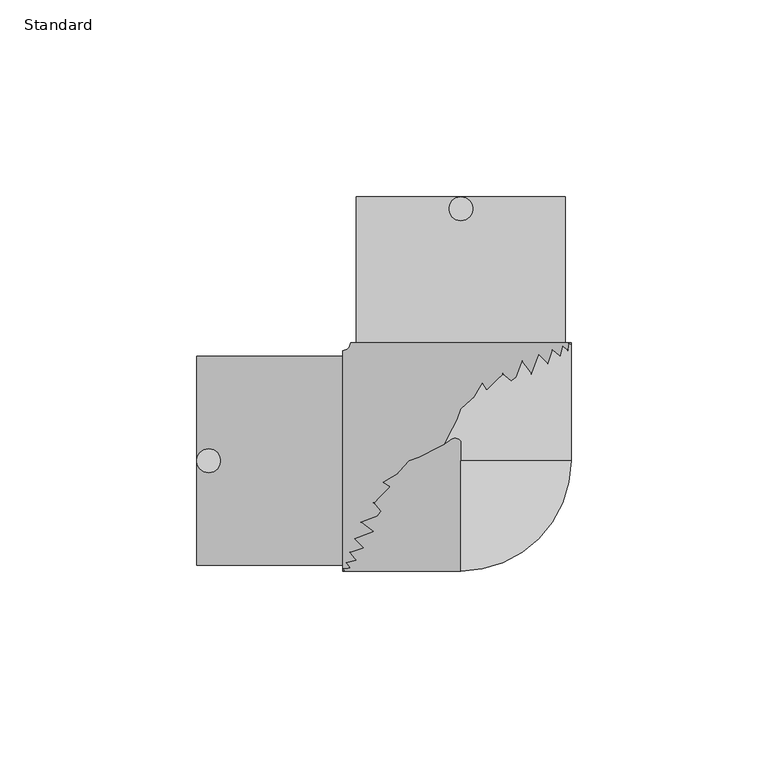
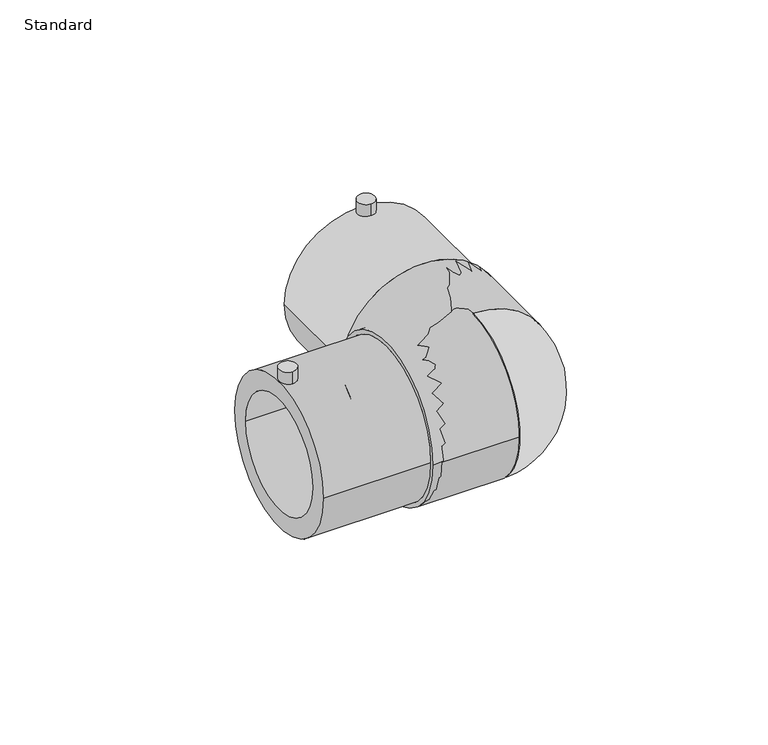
"""IFC4 building model written with IfcOpenShell, lengths in millimetres: pipe fitting geometry, EGB_VASEN_ PPR_Codo electrosoldable 90 WXRD200_Codo electrosoldable 45 WXRD220 : Standard."""

from ifc_helpers import new_model, si_unit, point, frame, frame_2d, origin, origin_2d, place, context, project, spatial, polyline, circle_curve, ellipse_curve, trimmed, segment, composite_curve, outline, extrude, source, transform, mapped, element, save
from ifc_brep_helpers import plane_surface, cylinder_surface, revolved_surface, advanced_brep


def standard_75b42b0b(model_context):
    return source(origin(), model_context, "Body", "SolidModel", [
        advanced_brep(
        [(0.0, 0.0, -28.0), (0.0, 0.0, 28.0)],
        [
            (0, 1, circle_curve(frame((0.0, 0.0, 0.0), z_axis=(-1.0, 0.0, 0.0), x_axis=(0.0, 1.0, 0.0)), 28.0)),
            (1, 0),
            (1, 0, circle_curve(frame((0.0, 0.0, 0.0), z_axis=(0.0, 1.0, 0.0), x_axis=(-1.0, 0.0, 0.0)), 28.0)),
        ],
        [
            plane_surface(frame((0.0, 0.0, 38.0431585), z_axis=(-1.0, 0.0, 0.0), x_axis=(0.0, -1.0, 0.0))),
            plane_surface(frame((0.0, 0.0, 38.0431585), z_axis=(0.0, 1.0, 0.0), x_axis=(1.0, 0.0, 0.0))),
            revolved_surface(trimmed(ellipse_curve(frame((0.0, 0.0, 0.0), z_axis=(1.0, 0.0, 0.0), x_axis=(0.0, 1.0, 0.0)), 28.0, 28.0), [point((0.0, 0.0, 28.0))], [point((0.0, 0.0, -28.0))], True, "CARTESIAN"), (0.0, 0.0, 38.0431585), (0.0, 0.0, -1.0)),
        ],
        [
            (0, [[1, 2]]),
            (1, [[3, -2]]),
            (2, [[-1, -3]]),
        ],
    ),
        advanced_brep(
        [(-67.0, -26.5, 0.0), (-67.0, 26.5, 0.0), (-67.0, -20.0, 0.0), (-67.0, 20.0, 0.0), (-30.0, -26.5, 0.0), (-30.0, 26.5, 0.0), (-30.0, -20.0, 0.0), (-30.0, 20.0, 0.0), (-30.0, -28.0, 0.0), (-30.0, 28.0, 0.0), (28.0, 30.0, 0.0), (-28.0, 30.0, 0.0), (26.5, 30.0, 0.0), (-26.5, 30.0, 0.0), (20.0, 30.0, 0.0), (-20.0, 30.0, 0.0), (26.5, 67.0, 0.0), (-26.5, 67.0, 0.0), (20.0, 67.0, 0.0), (-20.0, 67.0, 0.0)],
        [
            (0, 1, circle_curve(frame((-67.0, 0.0, 0.0), z_axis=(-1.0, 0.0, 0.0), x_axis=(0.0, 1.0, 0.0)), 26.5)),
            (1, 0, circle_curve(frame((-67.0, 0.0, 0.0), z_axis=(-1.0, 0.0, 0.0), x_axis=(0.0, 1.0, 0.0)), 26.5)),
            (2, 3, circle_curve(frame((-67.0, 0.0, 0.0), z_axis=(1.0, 0.0, 0.0), x_axis=(0.0, 1.0, 0.0)), 20.0)),
            (3, 2, circle_curve(frame((-67.0, 0.0, 0.0), z_axis=(1.0, 0.0, 0.0), x_axis=(0.0, 1.0, 0.0)), 20.0)),
            (0, 4),
            (4, 5, circle_curve(frame((-30.0, 0.0, 0.0), z_axis=(-1.0, 0.0, 0.0), x_axis=(0.0, 1.0, 0.0)), 26.5)),
            (5, 1),
            (5, 4, circle_curve(frame((-30.0, 0.0, 0.0), z_axis=(-1.0, 0.0, 0.0), x_axis=(0.0, 1.0, 0.0)), 26.5)),
            (2, 6),
            (6, 7, circle_curve(frame((-30.0, 0.0, 0.0), z_axis=(1.0, 0.0, 0.0), x_axis=(0.0, 1.0, 0.0)), 20.0)),
            (7, 3),
            (7, 6, circle_curve(frame((-30.0, 0.0, 0.0), z_axis=(1.0, 0.0, 0.0), x_axis=(0.0, 1.0, 0.0)), 20.0)),
            (8, 9, circle_curve(frame((-30.0, 0.0, 0.0), z_axis=(-1.0, 0.0, 0.0), x_axis=(0.0, 1.0, 0.0)), 28.0)),
            (9, 8, circle_curve(frame((-30.0, 0.0, 0.0), z_axis=(-1.0, 0.0, 0.0), x_axis=(0.0, 1.0, 0.0)), 28.0)),
            (10, 11, circle_curve(frame((0.0, 30.0, 0.0), z_axis=(0.0, 1.0, 0.0), x_axis=(-1.0, 0.0, 0.0)), 28.0)),
            (11, 10, circle_curve(frame((0.0, 30.0, 0.0), z_axis=(0.0, 1.0, 0.0), x_axis=(-1.0, 0.0, 0.0)), 28.0)),
            (12, 13, circle_curve(frame((0.0, 30.0, 0.0), z_axis=(0.0, -1.0, 0.0), x_axis=(-1.0, 0.0, 0.0)), 26.5)),
            (13, 12, circle_curve(frame((0.0, 30.0, 0.0), z_axis=(0.0, -1.0, 0.0), x_axis=(-1.0, 0.0, 0.0)), 26.5)),
            (14, 15, circle_curve(frame((0.0, 30.0, 0.0), z_axis=(0.0, 1.0, 0.0), x_axis=(-1.0, 0.0, 0.0)), 20.0)),
            (15, 14, circle_curve(frame((0.0, 30.0, 0.0), z_axis=(0.0, 1.0, 0.0), x_axis=(-1.0, 0.0, 0.0)), 20.0)),
            (8, 10, circle_curve(frame((-30.0, 30.0, 0.0), z_axis=(0.0, 0.0, 1.0), x_axis=(0.0, -1.0, 0.0)), 58.0)),
            (11, 9, circle_curve(frame((-30.0, 30.0, 0.0), z_axis=(0.0, 0.0, -1.0), x_axis=(0.0, -1.0, 0.0)), 2.0)),
            (16, 17, circle_curve(frame((0.0, 67.0, 0.0), z_axis=(0.0, 1.0, 0.0), x_axis=(-1.0, 0.0, 0.0)), 26.5)),
            (17, 16, circle_curve(frame((0.0, 67.0, 0.0), z_axis=(0.0, 1.0, 0.0), x_axis=(-1.0, 0.0, 0.0)), 26.5)),
            (18, 19, circle_curve(frame((0.0, 67.0, 0.0), z_axis=(0.0, -1.0, 0.0), x_axis=(-1.0, 0.0, 0.0)), 20.0)),
            (19, 18, circle_curve(frame((0.0, 67.0, 0.0), z_axis=(0.0, -1.0, 0.0), x_axis=(-1.0, 0.0, 0.0)), 20.0)),
            (17, 13),
            (12, 16),
            (19, 15),
            (14, 18),
        ],
        [
            plane_surface(frame((-67.0, 0.0, 0.0), z_axis=(-1.0, 0.0, 0.0), x_axis=(0.0, 0.0, 1.0))),
            cylinder_surface(frame((-67.0, 0.0, 0.0), z_axis=(-1.0, 0.0, 0.0), x_axis=(0.0, 1.0, 0.0)), 26.5),
            revolved_surface(polyline([(-30.0, 20.0, 0.0), (-67.0, 20.0, 0.0)]), (-67.0, 0.0, 0.0), (1.0, 0.0, 0.0)),
            plane_surface(frame((-30.0, 0.0, 0.0), z_axis=(-1.0, 0.0, 0.0), x_axis=(0.0, 0.0, 1.0))),
            plane_surface(frame((0.0, 30.0, 0.0), z_axis=(0.0, 1.0, 0.0), x_axis=(0.0, 0.0, 1.0))),
            revolved_surface(trimmed(ellipse_curve(frame((-30.0, 0.0, 0.0), z_axis=(-1.0, 0.0, 0.0), x_axis=(0.0, 1.0, 0.0)), 28.0, 28.0), [point((-30.0, -28.0, 0.0))], [point((-30.0, 28.0, 0.0))], True, "CARTESIAN"), (-30.0, 30.0, 0.0), (0.0, 0.0, 1.0)),
            revolved_surface(trimmed(ellipse_curve(frame((-30.0, 0.0, 0.0), z_axis=(-1.0, 0.0, 0.0), x_axis=(0.0, 1.0, 0.0)), 28.0, 28.0), [point((-30.0, 28.0, 0.0))], [point((-30.0, -28.0, 0.0))], True, "CARTESIAN"), (-30.0, 30.0, 0.0), (0.0, 0.0, 1.0)),
            plane_surface(frame((0.0, 67.0, 0.0), z_axis=(0.0, 1.0, 0.0), x_axis=(0.0, 0.0, 1.0))),
            cylinder_surface(frame((0.0, 30.0, 0.0), z_axis=(0.0, -1.0, 0.0), x_axis=(-1.0, 0.0, 0.0)), 26.5),
            revolved_surface(polyline([(-20.0, 67.0, 0.0), (-20.0, 30.0, 0.0)]), (0.0, 30.0, 0.0), (0.0, 1.0, 0.0)),
        ],
        [
            (0, [[1, 2], [3, 4]]),
            (1, [[-1, 5, 6, 7]]),
            (1, [[-2, -7, 8, -5]]),
            (2, [[-3, 9, 10, 11]]),
            (2, [[-4, -11, 12, -9]]),
            (3, [[-10, -12]]),
            (3, [[13, 14], [-6, -8]]),
            (4, [[15, 16], [17, 18]]),
            (4, [[19, 20]]),
            (5, [[-13, 21, -16, 22]]),
            (6, [[-14, -22, -15, -21]]),
            (7, [[23, 24], [25, 26]]),
            (8, [[-24, 27, -17, 28]]),
            (8, [[-23, -28, -18, -27]]),
            (9, [[-26, 29, -19, 30]]),
            (9, [[-25, -30, -20, -29]]),
        ],
    ),
        extrude(outline(composite_curve([segment(trimmed(circle_curve(frame_2d((0.0, 64.0)), 3.0), [point((0.0, 61.0))], [point((0.0, 67.0))], False, "CARTESIAN"), True, "CONTINUOUS"), segment(trimmed(circle_curve(frame_2d((0.0, 64.0)), 3.0), [point((0.0, 67.0))], [point((0.0, 61.0))], False, "CARTESIAN"), True, "CONTINUOUS")], self_intersect=False)), frame((0.0, 0.0, 21.0), z_axis=(0.0, 0.0, 1.0), x_axis=(1.0, 0.0, 0.0)), (0.0, 0.0, 1.0), 10.0),
        extrude(outline(composite_curve([segment(trimmed(circle_curve(frame_2d((-64.0, 0.0)), 3.0), [point((-64.0, -3.0))], [point((-64.0, 3.0))], False, "CARTESIAN"), True, "CONTINUOUS"), segment(trimmed(circle_curve(frame_2d((-64.0, 0.0)), 3.0), [point((-64.0, 3.0))], [point((-64.0, -3.0))], False, "CARTESIAN"), True, "CONTINUOUS")], self_intersect=False)), frame((0.0, 0.0, 21.0), z_axis=(0.0, 0.0, 1.0), x_axis=(1.0, 0.0, 0.0)), (0.0, 0.0, 1.0), 10.0),
        extrude(outline(composite_curve([segment(trimmed(circle_curve(origin_2d(), 28.0), [point((-28.0, 0.0))], [point((28.0, 0.0))], False, "CARTESIAN"), True, "CONTINUOUS"), segment(trimmed(circle_curve(origin_2d(), 28.0), [point((28.0, 0.0))], [point((-28.0, 0.0))], False, "CARTESIAN"), True, "CONTINUOUS")], self_intersect=False)), frame((-30.0, 0.0, 0.0), z_axis=(1.0, 0.0, 0.0), x_axis=(0.0, 1.0, 0.0)), (0.0, 0.0, 1.0), 30.0),
        extrude(outline(composite_curve([segment(trimmed(circle_curve(origin_2d(), 28.0), [point((0.0, -28.0))], [point((0.0, 28.0))], False, "CARTESIAN"), True, "CONTINUOUS"), segment(trimmed(circle_curve(origin_2d(), 28.0), [point((0.0, 28.0))], [point((0.0, -28.0))], False, "CARTESIAN"), True, "CONTINUOUS")], self_intersect=False)), frame((0.0, 0.0, 0.0), z_axis=(0.0, 1.0, 0.0), x_axis=(0.0, 0.0, 1.0)), (0.0, 0.0, 1.0), 30.0),
    ])


if __name__ == "__main__":
    model = new_model("IFC4")
    model_context = context("Model", 3, world=origin())
    ifc_project = project(units=[si_unit("LENGTHUNIT", "METRE", prefix="MILLI")], contexts=[model_context])
    site = spatial("IfcSite", under=ifc_project)
    building = spatial("IfcBuilding", under=site)
    placement = place(None, origin())
    standard_shape = standard_75b42b0b(model_context)
    element("IfcPipeFitting", 1, ObjectType="EGB_VASEN_ PPR_Codo electrosoldable 90 WXRD200_Codo electrosoldable 45 WXRD220 : Standard", at=placement, inside=building, context=model_context, shape_type="MappedRepresentation", body=[
        mapped(standard_shape, transform((0.0, 0.0, 0.0), x_axis=(1.0, 0.0, 0.0), y_axis=(0.0, 1.0, 0.0), z_axis=(0.0, 0.0, 1.0))),
    ])
    save(model, "model.ifc")
